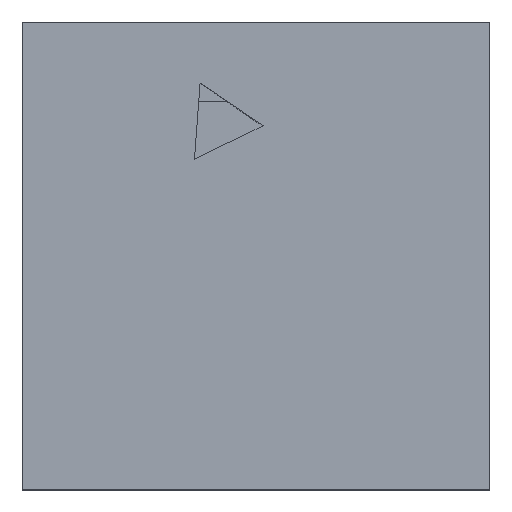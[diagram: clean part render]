
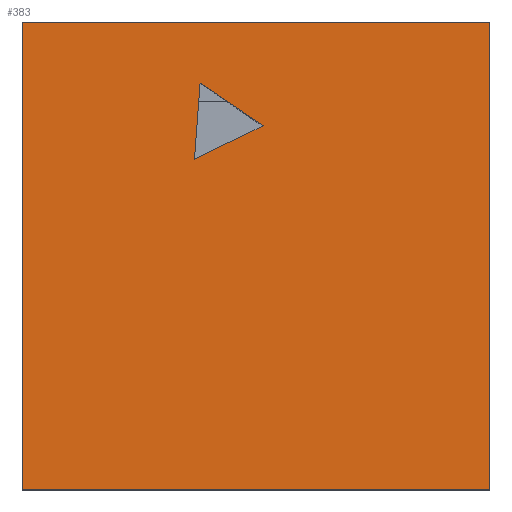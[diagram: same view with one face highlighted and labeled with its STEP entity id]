
A CAD part, top view. The second image highlights one B-rep face of the part: STEP entity #383.
In plain terms, the highlighted planar face has unit normal (0, 0, 1).
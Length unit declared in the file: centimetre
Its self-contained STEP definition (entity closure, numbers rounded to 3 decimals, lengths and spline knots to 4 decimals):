
#2 = CARTESIAN_POINT ( 'NONE',  ( 0., 1000., 1000. ) ) ;
#3 = EDGE_CURVE ( 'NONE', #575, #680, #429, .T. ) ;
#16 = VERTEX_POINT ( 'NONE', #2 ) ;
#18 = AXIS2_PLACEMENT_3D ( 'NONE', #221, #582, #335 ) ;
#55 = VERTEX_POINT ( 'NONE', #323 ) ;
#72 = CARTESIAN_POINT ( 'NONE',  ( 515.1217, 777.5361, 1000. ) ) ;
#79 = CARTESIAN_POINT ( 'NONE',  ( 380.2148, 869.2551, 1000. ) ) ;
#81 = VECTOR ( 'NONE', #658, 100. ) ;
#85 = DIRECTION ( 'NONE',  ( -0.073, -0.997, 0. ) ) ;
#90 = ORIENTED_EDGE ( 'NONE', *, *, #591, .F. ) ;
#97 = PLANE ( 'NONE',  #18 ) ;
#101 = VECTOR ( 'NONE', #448, 100. ) ;
#103 = LINE ( 'NONE', #200, #751 ) ;
#132 = CARTESIAN_POINT ( 'NONE',  ( 0., 0., 1000. ) ) ;
#140 = ORIENTED_EDGE ( 'NONE', *, *, #564, .T. ) ;
#143 = EDGE_CURVE ( 'NONE', #16, #575, #630, .T. ) ;
#157 = EDGE_CURVE ( 'NONE', #55, #16, #211, .T. ) ;
#174 = VERTEX_POINT ( 'NONE', #79 ) ;
#200 = CARTESIAN_POINT ( 'NONE',  ( 380.2148, 869.2551, 1000. ) ) ;
#211 = LINE ( 'NONE', #626, #713 ) ;
#221 = CARTESIAN_POINT ( 'NONE',  ( 0., 0., 1000. ) ) ;
#228 = VECTOR ( 'NONE', #319, 100. ) ;
#236 = EDGE_LOOP ( 'NONE', ( #715, #295, #140, #698 ) ) ;
#237 = ORIENTED_EDGE ( 'NONE', *, *, #469, .F. ) ;
#242 = LINE ( 'NONE', #661, #473 ) ;
#257 = CARTESIAN_POINT ( 'NONE',  ( 1000., 0., 1000. ) ) ;
#295 = ORIENTED_EDGE ( 'NONE', *, *, #3, .T. ) ;
#303 = VECTOR ( 'NONE', #572, 100. ) ;
#319 = DIRECTION ( 'NONE',  ( 1., 0., 0. ) ) ;
#323 = CARTESIAN_POINT ( 'NONE',  ( 1000., 1000., 1000. ) ) ;
#331 = DIRECTION ( 'NONE',  ( -1., 0., 0. ) ) ;
#335 = DIRECTION ( 'NONE',  ( 1., 0., 0. ) ) ;
#383 = ADVANCED_FACE ( 'NONE', ( #634, #638 ), #97, .T. ) ;
#421 = ORIENTED_EDGE ( 'NONE', *, *, #682, .F. ) ;
#429 = LINE ( 'NONE', #132, #228 ) ;
#448 = DIRECTION ( 'NONE',  ( 0.9, 0.435, 0. ) ) ;
#469 = EDGE_CURVE ( 'NONE', #174, #596, #103, .T. ) ;
#473 = VECTOR ( 'NONE', #485, 100. ) ;
#485 = DIRECTION ( 'NONE',  ( 0., 1., 0. ) ) ;
#494 = LINE ( 'NONE', #666, #81 ) ;
#501 = CARTESIAN_POINT ( 'NONE',  ( 368.2373, 706.5628, 1000. ) ) ;
#564 = EDGE_CURVE ( 'NONE', #680, #55, #242, .T. ) ;
#567 = CARTESIAN_POINT ( 'NONE',  ( 0., 1000., 1000. ) ) ;
#572 = DIRECTION ( 'NONE',  ( 0., -1., 0. ) ) ;
#575 = VERTEX_POINT ( 'NONE', #646 ) ;
#582 = DIRECTION ( 'NONE',  ( 0., 0., 1. ) ) ;
#591 = EDGE_CURVE ( 'NONE', #685, #174, #494, .T. ) ;
#596 = VERTEX_POINT ( 'NONE', #607 ) ;
#607 = CARTESIAN_POINT ( 'NONE',  ( 368.2373, 706.5628, 1000. ) ) ;
#619 = LINE ( 'NONE', #501, #101 ) ;
#626 = CARTESIAN_POINT ( 'NONE',  ( 0., 1000., 1000. ) ) ;
#630 = LINE ( 'NONE', #567, #303 ) ;
#634 = FACE_BOUND ( 'NONE', #708, .T. ) ;
#638 = FACE_OUTER_BOUND ( 'NONE', #236, .T. ) ;
#646 = CARTESIAN_POINT ( 'NONE',  ( 0., 0., 1000. ) ) ;
#658 = DIRECTION ( 'NONE',  ( -0.827, 0.562, 0. ) ) ;
#661 = CARTESIAN_POINT ( 'NONE',  ( 1000., 1000., 1000. ) ) ;
#666 = CARTESIAN_POINT ( 'NONE',  ( 515.1217, 777.5361, 1000. ) ) ;
#680 = VERTEX_POINT ( 'NONE', #257 ) ;
#682 = EDGE_CURVE ( 'NONE', #596, #685, #619, .T. ) ;
#685 = VERTEX_POINT ( 'NONE', #72 ) ;
#698 = ORIENTED_EDGE ( 'NONE', *, *, #157, .T. ) ;
#708 = EDGE_LOOP ( 'NONE', ( #90, #421, #237 ) ) ;
#713 = VECTOR ( 'NONE', #331, 100. ) ;
#715 = ORIENTED_EDGE ( 'NONE', *, *, #143, .T. ) ;
#751 = VECTOR ( 'NONE', #85, 100. ) ;
